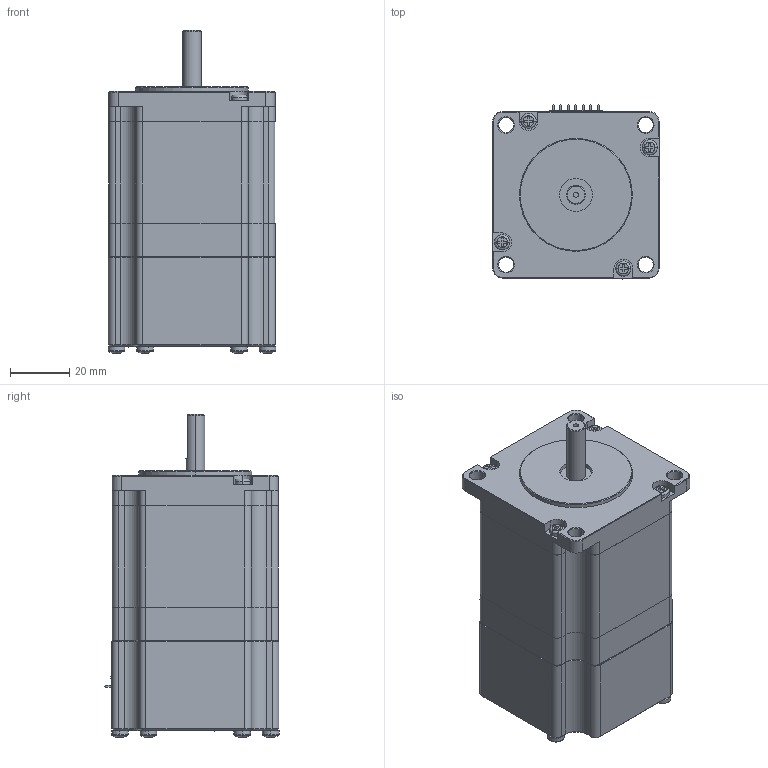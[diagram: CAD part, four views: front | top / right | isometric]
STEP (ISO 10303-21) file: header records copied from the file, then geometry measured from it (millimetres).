
FILE_DESCRIPTION (( 'STEP AP214' ), '1' );
FILE_NAME ('23MSD Series.STEP', '2016-11-15T19:10:36', ( '' ), ( '' ), 'SwSTEP 2.0', 'SolidWorks 2016', '' );
FILE_SCHEMA (( 'AUTOMOTIVE_DESIGN' ));
Length unit declared in the file: millimetre
Products named in the file (6): pan cross head_am_B18.6.7M - M3 x 0.5 x 30 Type I Cross Recessed PHMS --30S; Pan Cross Head_AI_CR-PHMS 0.112-40x0.25x0.25-S; 23MSD cover; PCBAA6722; 23YX06X-LW4-01 Series_23Y106D-LW4-01; 23MSD Series
Assembly tree (9 placements, depth 2):
  23MSD Series
    23YX06X-LW4-01 Series_23Y106D-LW4-01
    PCBAA6722
    23MSD cover
    Pan Cross Head_AI_CR-PHMS 0.112-40x0.25x0.25-S  x2
    pan cross head_am_B18.6.7M - M3 x 0.5 x 30 Type I Cross Recessed PHMS --30S  x4
Bounding box: 56.6 x 58.75 x 109.09 mm (x, y, z)
Volume: 193200.3 mm3; surface area: 45477.3 mm2
Topology: 9 solids, 9 shells, 3279 faces, 8632 edges, 5503 vertices
Faces by surface type: cone 1097, plane 967, cylinder 725, bspline 445, torus 31, sphere 14
Entity records: 101747 total; most frequent: CARTESIAN_POINT 35029, ORIENTED_EDGE 10836, DIRECTION 9030, EDGE_CURVE 5418, VERTEX_POINT 3503, LINE 3262, VECTOR 3262, AXIS2_PLACEMENT_3D 2884
